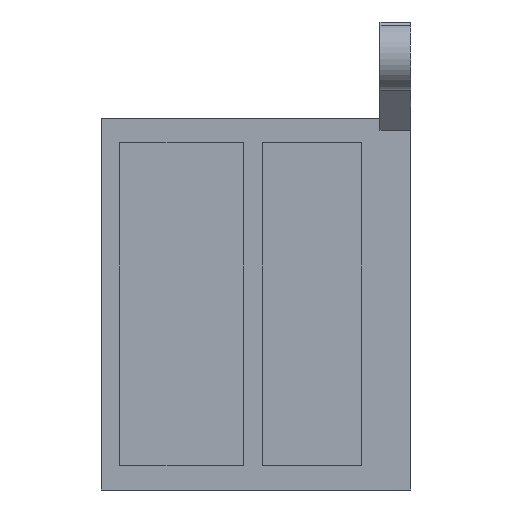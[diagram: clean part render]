
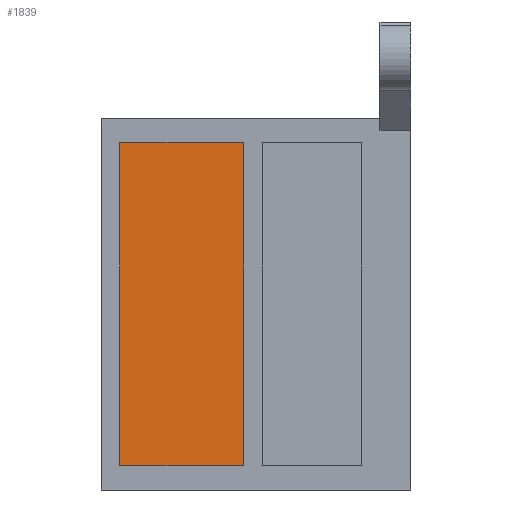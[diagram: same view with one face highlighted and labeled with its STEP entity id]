
A CAD part, front view. The second image highlights one B-rep face of the part: STEP entity #1839.
In plain terms, the highlighted planar face has unit normal (0, -1, 0).
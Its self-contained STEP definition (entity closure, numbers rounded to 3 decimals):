
#1053 = PLANE('',#1054);
#1054 = AXIS2_PLACEMENT_3D('',#1055,#1056,#1057);
#1055 = CARTESIAN_POINT('',(-37.,-3.,-14.));
#1056 = DIRECTION('',(0.,0.,1.));
#1057 = DIRECTION('',(1.,0.,0.));
#1079 = PLANE('',#1080);
#1080 = AXIS2_PLACEMENT_3D('',#1081,#1082,#1083);
#1081 = CARTESIAN_POINT('',(-37.,-3.,-66.));
#1082 = DIRECTION('',(1.,0.,0.));
#1083 = DIRECTION('',(0.,0.,1.));
#1105 = PLANE('',#1106);
#1106 = AXIS2_PLACEMENT_3D('',#1107,#1108,#1109);
#1107 = CARTESIAN_POINT('',(-37.,-3.,-66.));
#1108 = DIRECTION('',(0.,0.,1.));
#1109 = DIRECTION('',(1.,0.,0.));
#1129 = PLANE('',#1130);
#1130 = AXIS2_PLACEMENT_3D('',#1131,#1132,#1133);
#1131 = CARTESIAN_POINT('',(-17.,-3.,-66.));
#1132 = DIRECTION('',(1.,0.,0.));
#1133 = DIRECTION('',(0.,0.,1.));
#1442 = VERTEX_POINT('',#1443);
#1443 = CARTESIAN_POINT('',(-37.,3.,-14.));
#1466 = VERTEX_POINT('',#1467);
#1467 = CARTESIAN_POINT('',(-17.,3.,-14.));
#1488 = EDGE_CURVE('',#1442,#1466,#1489,.T.);
#1489 = SURFACE_CURVE('',#1490,(#1494,#1501),.PCURVE_S1.);
#1490 = LINE('',#1491,#1492);
#1491 = CARTESIAN_POINT('',(-37.,3.,-14.));
#1492 = VECTOR('',#1493,1.);
#1493 = DIRECTION('',(1.,0.,0.));
#1494 = PCURVE('',#1053,#1495);
#1495 = DEFINITIONAL_REPRESENTATION('',(#1496),#1500);
#1496 = LINE('',#1497,#1498);
#1497 = CARTESIAN_POINT('',(0.,6.));
#1498 = VECTOR('',#1499,1.);
#1499 = DIRECTION('',(1.,0.));
#1500 = ( GEOMETRIC_REPRESENTATION_CONTEXT(2) 
PARAMETRIC_REPRESENTATION_CONTEXT() REPRESENTATION_CONTEXT('2D SPACE',''
  ) );
#1501 = PCURVE('',#1502,#1507);
#1502 = PLANE('',#1503);
#1503 = AXIS2_PLACEMENT_3D('',#1504,#1505,#1506);
#1504 = CARTESIAN_POINT('',(-37.,3.,-66.));
#1505 = DIRECTION('',(0.,1.,0.));
#1506 = DIRECTION('',(0.,0.,1.));
#1507 = DEFINITIONAL_REPRESENTATION('',(#1508),#1512);
#1508 = LINE('',#1509,#1510);
#1509 = CARTESIAN_POINT('',(52.,0.));
#1510 = VECTOR('',#1511,1.);
#1511 = DIRECTION('',(0.,1.));
#1512 = ( GEOMETRIC_REPRESENTATION_CONTEXT(2) 
PARAMETRIC_REPRESENTATION_CONTEXT() REPRESENTATION_CONTEXT('2D SPACE',''
  ) );
#1520 = VERTEX_POINT('',#1521);
#1521 = CARTESIAN_POINT('',(-37.,3.,-66.));
#1542 = EDGE_CURVE('',#1520,#1442,#1543,.T.);
#1543 = SURFACE_CURVE('',#1544,(#1548,#1555),.PCURVE_S1.);
#1544 = LINE('',#1545,#1546);
#1545 = CARTESIAN_POINT('',(-37.,3.,-66.));
#1546 = VECTOR('',#1547,1.);
#1547 = DIRECTION('',(0.,0.,1.));
#1548 = PCURVE('',#1079,#1549);
#1549 = DEFINITIONAL_REPRESENTATION('',(#1550),#1554);
#1550 = LINE('',#1551,#1552);
#1551 = CARTESIAN_POINT('',(0.,-6.));
#1552 = VECTOR('',#1553,1.);
#1553 = DIRECTION('',(1.,0.));
#1554 = ( GEOMETRIC_REPRESENTATION_CONTEXT(2) 
PARAMETRIC_REPRESENTATION_CONTEXT() REPRESENTATION_CONTEXT('2D SPACE',''
  ) );
#1555 = PCURVE('',#1502,#1556);
#1556 = DEFINITIONAL_REPRESENTATION('',(#1557),#1561);
#1557 = LINE('',#1558,#1559);
#1558 = CARTESIAN_POINT('',(0.,0.));
#1559 = VECTOR('',#1560,1.);
#1560 = DIRECTION('',(1.,0.));
#1561 = ( GEOMETRIC_REPRESENTATION_CONTEXT(2) 
PARAMETRIC_REPRESENTATION_CONTEXT() REPRESENTATION_CONTEXT('2D SPACE',''
  ) );
#1569 = VERTEX_POINT('',#1570);
#1570 = CARTESIAN_POINT('',(-17.,3.,-66.));
#1591 = EDGE_CURVE('',#1569,#1466,#1592,.T.);
#1592 = SURFACE_CURVE('',#1593,(#1597,#1604),.PCURVE_S1.);
#1593 = LINE('',#1594,#1595);
#1594 = CARTESIAN_POINT('',(-17.,3.,-66.));
#1595 = VECTOR('',#1596,1.);
#1596 = DIRECTION('',(0.,0.,1.));
#1597 = PCURVE('',#1129,#1598);
#1598 = DEFINITIONAL_REPRESENTATION('',(#1599),#1603);
#1599 = LINE('',#1600,#1601);
#1600 = CARTESIAN_POINT('',(0.,-6.));
#1601 = VECTOR('',#1602,1.);
#1602 = DIRECTION('',(1.,0.));
#1603 = ( GEOMETRIC_REPRESENTATION_CONTEXT(2) 
PARAMETRIC_REPRESENTATION_CONTEXT() REPRESENTATION_CONTEXT('2D SPACE',''
  ) );
#1604 = PCURVE('',#1502,#1605);
#1605 = DEFINITIONAL_REPRESENTATION('',(#1606),#1610);
#1606 = LINE('',#1607,#1608);
#1607 = CARTESIAN_POINT('',(0.,20.));
#1608 = VECTOR('',#1609,1.);
#1609 = DIRECTION('',(1.,0.));
#1610 = ( GEOMETRIC_REPRESENTATION_CONTEXT(2) 
PARAMETRIC_REPRESENTATION_CONTEXT() REPRESENTATION_CONTEXT('2D SPACE',''
  ) );
#1618 = EDGE_CURVE('',#1520,#1569,#1619,.T.);
#1619 = SURFACE_CURVE('',#1620,(#1624,#1631),.PCURVE_S1.);
#1620 = LINE('',#1621,#1622);
#1621 = CARTESIAN_POINT('',(-37.,3.,-66.));
#1622 = VECTOR('',#1623,1.);
#1623 = DIRECTION('',(1.,0.,0.));
#1624 = PCURVE('',#1105,#1625);
#1625 = DEFINITIONAL_REPRESENTATION('',(#1626),#1630);
#1626 = LINE('',#1627,#1628);
#1627 = CARTESIAN_POINT('',(0.,6.));
#1628 = VECTOR('',#1629,1.);
#1629 = DIRECTION('',(1.,0.));
#1630 = ( GEOMETRIC_REPRESENTATION_CONTEXT(2) 
PARAMETRIC_REPRESENTATION_CONTEXT() REPRESENTATION_CONTEXT('2D SPACE',''
  ) );
#1631 = PCURVE('',#1502,#1632);
#1632 = DEFINITIONAL_REPRESENTATION('',(#1633),#1637);
#1633 = LINE('',#1634,#1635);
#1634 = CARTESIAN_POINT('',(0.,0.));
#1635 = VECTOR('',#1636,1.);
#1636 = DIRECTION('',(0.,1.));
#1637 = ( GEOMETRIC_REPRESENTATION_CONTEXT(2) 
PARAMETRIC_REPRESENTATION_CONTEXT() REPRESENTATION_CONTEXT('2D SPACE',''
  ) );
#1839 = ADVANCED_FACE('',(#1840),#1502,.F.);
#1840 = FACE_BOUND('',#1841,.F.);
#1841 = EDGE_LOOP('',(#1842,#1843,#1844,#1845));
#1842 = ORIENTED_EDGE('',*,*,#1618,.F.);
#1843 = ORIENTED_EDGE('',*,*,#1542,.T.);
#1844 = ORIENTED_EDGE('',*,*,#1488,.T.);
#1845 = ORIENTED_EDGE('',*,*,#1591,.F.);
